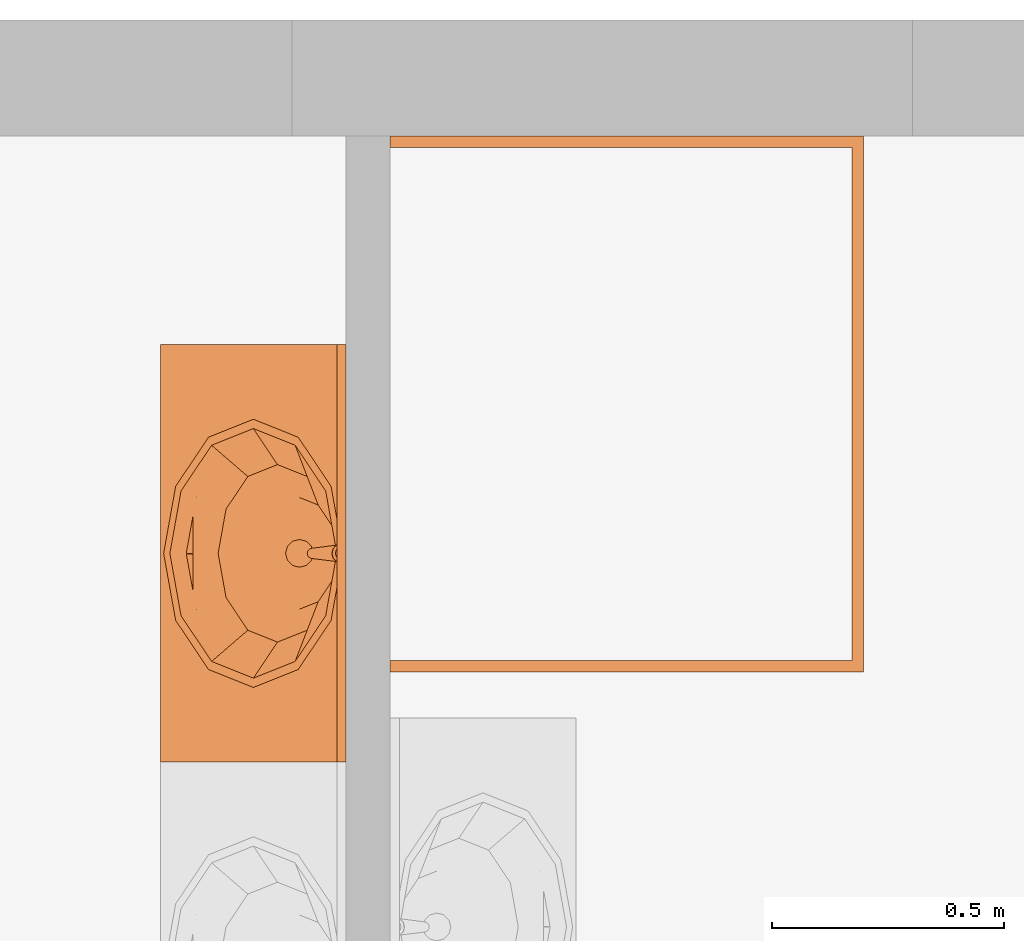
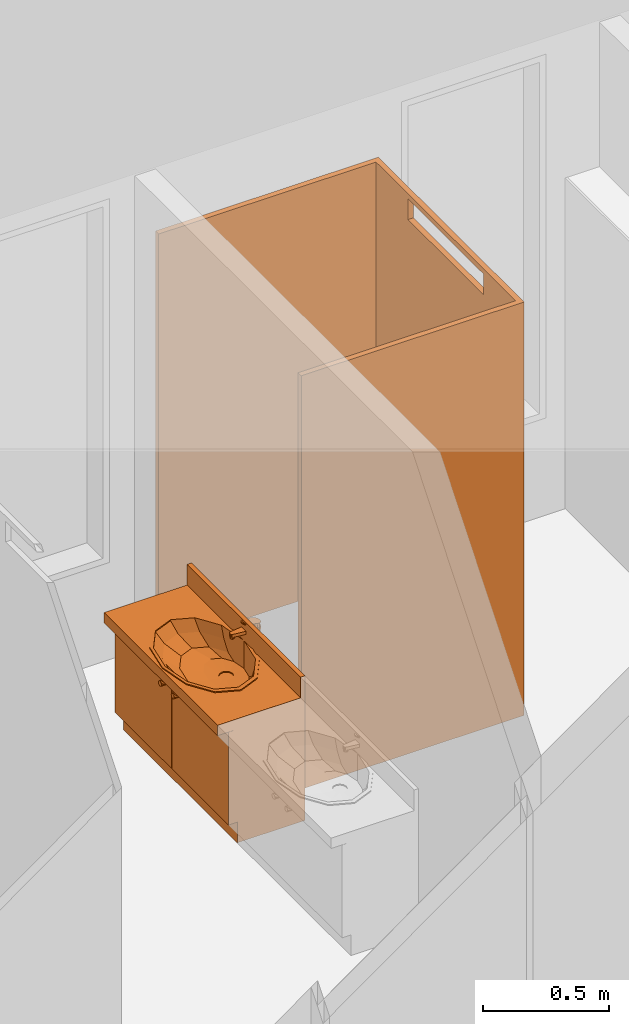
# One storey, part 16 of 17: 2 proxies.
"""IFC2X3 building model written with IfcOpenShell, lengths in millimetres."""

from ifc_helpers import new_model, entity, si_unit, converted_unit, direction, frame, origin_with_axes, place, context, project, spatial, open_shell, faceted_brep, surface_model, material, element, save


model = new_model("IFC2X3")

# Units and contexts
model_context = context("Model", 3, precision=1e-05, world=origin_with_axes(), true_north=direction((0.0, 1.0)))
ifc_project = project(units=[si_unit("LENGTHUNIT", "METRE", prefix="MILLI"), si_unit("AREAUNIT", "SQUARE_METRE"), si_unit("VOLUMEUNIT", "CUBIC_METRE"), converted_unit("PLANEANGLEUNIT", "DEGREE", entity("IfcPlaneAngleMeasure", 0.017453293), si_unit("PLANEANGLEUNIT", "RADIAN"), dimensions=[0, 0, 0, 0, 0, 0, 0]), si_unit("SOLIDANGLEUNIT", "STERADIAN"), si_unit("MASSUNIT", "GRAM"), si_unit("TIMEUNIT", "SECOND"), si_unit("THERMODYNAMICTEMPERATUREUNIT", "DEGREE_CELSIUS"), si_unit("LUMINOUSINTENSITYUNIT", "LUMEN")], contexts=[model_context])

# Site, building, storey
site_placement = place(None, origin_with_axes())
site = spatial("IfcSite", under=ifc_project, at=site_placement, Name="\x83T\x83C\x83g", CompositionType="ELEMENT")
building_placement = place(site_placement, origin_with_axes())
building = spatial("IfcBuilding", under=site, at=building_placement, Name="Daitec-Sample 201208", CompositionType="ELEMENT")
storey_placement = place(building_placement, origin_with_axes())
storey = spatial("IfcBuildingStorey", under=building, at=storey_placement, Name="1F", CompositionType="ELEMENT", Elevation=0.0)

# Proxies
ifc_material = material(Name="\x94w\x8ci")
proxy_1_placement = place(storey_placement, frame((22065.041, 22394.354, 0.0), z_axis=(0.0, 0.0, 1.0), x_axis=(0.0, 1.0, 0.0)))
element("IfcBuildingElementProxy", 1, at=proxy_1_placement, inside=storey, material=ifc_material, Name="O0", CompositionType="ELEMENT", context=model_context, shape_type="Brep", body=[
    faceted_brep([(0.0, 0.0, 200.0), (277.82295, 0.0, 200.0), (277.82295, 0.0, 1975.0), (0.0, 0.0, 1975.0), (0.0, 25.0, 200.0), (277.82295, 25.0, 200.0), (277.82295, 25.0, 1975.0), (0.0, 25.0, 1975.0)], [[[0, 1, 2, 3]], [[0, 4, 5, 1]], [[1, 5, 6, 2]], [[3, 2, 6, 7]], [[4, 0, 3, 7]], [[5, 4, 7, 6]]]),
    faceted_brep([(877.82295, 0.0, 200.0), (1155.6459, 0.0, 200.0), (1155.6459, 0.0, 1975.0), (877.82295, 0.0, 1975.0), (877.82295, 25.0, 200.0), (1155.6459, 25.0, 200.0), (1155.6459, 25.0, 1975.0), (877.82295, 25.0, 1975.0)], [[[0, 1, 2, 3]], [[0, 4, 5, 1]], [[1, 5, 6, 2]], [[3, 2, 6, 7]], [[4, 0, 3, 7]], [[5, 4, 7, 6]]]),
    faceted_brep([(0.0, 0.0, 0.0), (277.82295, 0.0, 0.0), (277.82295, 0.0, 200.0), (0.0, 0.0, 200.0), (0.0, 25.0, 0.0), (277.82295, 25.0, 0.0), (277.82295, 25.0, 200.0), (0.0, 25.0, 200.0)], [[[0, 1, 2, 3]], [[0, 4, 5, 1]], [[1, 5, 6, 2]], [[3, 2, 6, 7]], [[4, 0, 3, 7]], [[5, 4, 7, 6]]]),
    faceted_brep([(877.82295, 0.0, 0.0), (1155.6459, 0.0, 0.0), (1155.6459, 0.0, 200.0), (877.82295, 0.0, 200.0), (877.82295, 25.0, 0.0), (1155.6459, 25.0, 0.0), (1155.6459, 25.0, 200.0), (877.82295, 25.0, 200.0)], [[[0, 1, 2, 3]], [[0, 4, 5, 1]], [[1, 5, 6, 2]], [[3, 2, 6, 7]], [[4, 0, 3, 7]], [[5, 4, 7, 6]]]),
    faceted_brep([(1155.6459, 0.0, 1975.0), (1155.6459, 25.0, 1975.0), (1155.6459, 25.0, 2000.0), (1155.6459, 0.0, 2000.0), (0.0, 0.0, 1975.0), (0.0, 25.0, 1975.0), (0.0, 25.0, 2000.0), (0.0, 0.0, 2000.0)], [[[0, 1, 2, 3]], [[0, 4, 5, 1]], [[1, 5, 6, 2]], [[3, 2, 6, 7]], [[4, 0, 3, 7]], [[5, 4, 7, 6]]]),
    faceted_brep([(277.82295, 0.0, 50.0), (877.82295, 0.0, 50.0), (877.82295, 0.0, 1875.0), (277.82295, 0.0, 1875.0), (277.82295, 25.0, 50.0), (877.82295, 25.0, 50.0), (877.82295, 25.0, 1875.0), (277.82295, 25.0, 1875.0)], [[[0, 1, 2, 3]], [[0, 4, 5, 1]], [[1, 5, 6, 2]], [[3, 2, 6, 7]], [[4, 0, 3, 7]], [[5, 4, 7, 6]]]),
    faceted_brep([(25.0, 25.0, 0.0), (25.0, 1019.9703, 0.0), (25.0, 1019.9703, 2000.0), (25.0, 25.0, 2000.0), (0.0, 25.0, 0.0), (0.0, 1019.9703, 0.0), (0.0, 1019.9703, 2000.0), (0.0, 25.0, 2000.0)], [[[0, 1, 2, 3]], [[0, 4, 5, 1]], [[1, 5, 6, 2]], [[3, 2, 6, 7]], [[4, 0, 3, 7]], [[5, 4, 7, 6]]]),
    faceted_brep([(25.0, 25.0, 1775.0), (25.0, 1019.9703, 1775.0), (25.0, 1019.9703, 1800.0), (25.0, 25.0, 1800.0), (0.0, 25.0, 1775.0), (0.0, 1019.9703, 1775.0), (0.0, 1019.9703, 1800.0), (0.0, 25.0, 1800.0)], [[[0, 1, 2, 3]], [[0, 4, 5, 1]], [[1, 5, 6, 2]], [[3, 2, 6, 7]], [[4, 0, 3, 7]], [[5, 4, 7, 6]]]),
    faceted_brep([(1155.6459, 25.0, 0.0), (1155.6459, 1019.9703, 0.0), (1155.6459, 1019.9703, 2000.0), (1155.6459, 25.0, 2000.0), (1130.6459, 25.0, 0.0), (1130.6459, 1019.9703, 0.0), (1130.6459, 1019.9703, 2000.0), (1130.6459, 25.0, 2000.0)], [[[0, 1, 2, 3]], [[0, 4, 5, 1]], [[1, 5, 6, 2]], [[3, 2, 6, 7]], [[4, 0, 3, 7]], [[5, 4, 7, 6]]]),
    faceted_brep([(1155.6459, 25.0, 1775.0), (1155.6459, 1019.9703, 1775.0), (1155.6459, 1019.9703, 1800.0), (1155.6459, 25.0, 1800.0), (1130.6459, 25.0, 1775.0), (1130.6459, 1019.9703, 1775.0), (1130.6459, 1019.9703, 1800.0), (1130.6459, 25.0, 1800.0)], [[[0, 1, 2, 3]], [[0, 4, 5, 1]], [[1, 5, 6, 2]], [[3, 2, 6, 7]], [[4, 0, 3, 7]], [[5, 4, 7, 6]]]),
])
proxy_2_placement = place(storey_placement, frame((20550.071, 22200.379, 0.0), z_axis=(0.0, 0.0, 1.0), x_axis=(0.0, -1.0, 0.0)))
element("IfcBuildingElementProxy", 2, at=proxy_2_placement, inside=storey, material=ifc_material, Name="O2", context=model_context, shape_type="Brep", body=[
    faceted_brep([(0.0, 90.0, 0.0), (0.0, 90.0, 100.0), (-900.0, 90.0, 100.0), (-900.0, 90.0, 0.0), (0.0, 400.0, 0.0), (0.0, 400.0, 100.0), (-900.0, 400.0, 100.0), (-900.0, 400.0, 0.0)], [[[0, 1, 2, 3]], [[4, 5, 1, 0]], [[1, 5, 6, 2]], [[3, 2, 6, 7]], [[0, 3, 7, 4]], [[7, 6, 5, 4]]]),
    faceted_brep([(0.0, 70.0, 100.0), (0.0, 70.0, 120.0), (-20.0, 70.0, 120.0), (-20.0, 70.0, 100.0), (0.0, 400.0, 100.0), (0.0, 400.0, 120.0), (-20.0, 400.0, 120.0), (-880.0, 400.0, 120.0), (-900.0, 400.0, 120.0), (-900.0, 70.0, 120.0), (-880.0, 70.0, 120.0), (-880.0, 70.0, 100.0), (-900.0, 70.0, 100.0), (-900.0, 400.0, 100.0), (-880.0, 400.0, 100.0), (-20.0, 400.0, 100.0)], [[[0, 1, 2, 3]], [[4, 5, 1, 0]], [[1, 5, 6, 7, 8, 9, 10, 2]], [[3, 2, 10, 11]], [[0, 3, 11, 12, 13, 14, 15, 4]], [[15, 6, 5, 4]], [[14, 7, 6, 15]], [[13, 8, 7, 14]], [[12, 9, 8, 13]], [[11, 10, 9, 12]]]),
    faceted_brep([(0.0, 70.0, 120.0), (0.0, 70.0, 550.0), (-20.0, 70.0, 550.0), (-20.0, 70.0, 120.0), (0.0, 400.0, 120.0), (0.0, 400.0, 550.0), (-900.0, 400.0, 550.0), (-900.0, 70.0, 550.0), (-880.0, 70.0, 550.0), (-880.0, 380.0, 550.0), (-20.0, 380.0, 550.0), (-20.0, 380.0, 120.0), (-880.0, 380.0, 120.0), (-880.0, 70.0, 120.0), (-900.0, 70.0, 120.0), (-900.0, 400.0, 120.0)], [[[0, 1, 2, 3]], [[4, 5, 1, 0]], [[1, 5, 6, 7, 8, 9, 10, 2]], [[3, 2, 10, 11]], [[0, 3, 11, 12, 13, 14, 15, 4]], [[15, 6, 5, 4]], [[14, 7, 6, 15]], [[13, 8, 7, 14]], [[12, 9, 8, 13]], [[11, 10, 9, 12]]]),
    faceted_brep([(-880.0, 70.0, 223.33333), (-880.0, 70.0, 243.33333), (-880.0, 380.0, 243.33333), (-880.0, 380.0, 223.33333), (-20.0, 70.0, 223.33333), (-20.0, 70.0, 243.33333), (-20.0, 380.0, 243.33333), (-20.0, 380.0, 223.33333)], [[[0, 1, 2, 3]], [[4, 5, 1, 0]], [[1, 5, 6, 2]], [[3, 2, 6, 7]], [[0, 3, 7, 4]], [[7, 6, 5, 4]]]),
    faceted_brep([(-880.0, 70.0, 366.66667), (-880.0, 70.0, 386.66667), (-880.0, 380.0, 386.66667), (-880.0, 380.0, 366.66667), (-20.0, 70.0, 366.66667), (-20.0, 70.0, 386.66667), (-20.0, 380.0, 386.66667), (-20.0, 380.0, 366.66667)], [[[0, 1, 2, 3]], [[4, 5, 1, 0]], [[1, 5, 6, 2]], [[3, 2, 6, 7]], [[0, 3, 7, 4]], [[7, 6, 5, 4]]]),
    faceted_brep([(0.0, 400.0, 550.0), (0.0, 0.0, 550.0), (-900.0, 0.0, 550.0), (-900.0, 400.0, 550.0), (-216.17314, 290.0, 550.0), (-315.0, 355.88457, 550.0), (-450.0, 380.0, 550.0), (-585.0, 355.88457, 550.0), (-683.82686, 290.0, 550.0), (-720.0, 200.0, 550.0), (-683.82686, 110.0, 550.0), (-585.0, 44.115427, 550.0), (-450.0, 20.0, 550.0), (-315.0, 44.115427, 550.0), (-216.17314, 110.0, 550.0), (-180.0, 200.0, 550.0), (0.0, 400.0, 600.0), (0.0, 0.0, 600.0), (-900.0, 0.0, 600.0), (-900.0, 400.0, 600.0), (-216.17314, 290.0, 600.0), (-315.0, 355.88457, 600.0), (-450.0, 380.0, 600.0), (-585.0, 355.88457, 600.0), (-683.82686, 290.0, 600.0), (-720.0, 200.0, 600.0), (-683.82686, 110.0, 600.0), (-585.0, 44.115427, 600.0), (-450.0, 20.0, 600.0), (-315.0, 44.115427, 600.0), (-216.17314, 110.0, 600.0), (-180.0, 200.0, 600.0)], [[[0, 1, 2, 3], [4, 5, 6, 7, 8, 9, 10, 11, 12, 13, 14, 15]], [[1, 0, 16, 17]], [[2, 1, 17, 18]], [[3, 2, 18, 19]], [[0, 3, 19, 16]], [[20, 21, 5, 4]], [[21, 22, 6, 5]], [[22, 23, 7, 6]], [[23, 24, 8, 7]], [[24, 25, 9, 8]], [[25, 26, 10, 9]], [[26, 27, 11, 10]], [[27, 28, 12, 11]], [[28, 29, 13, 12]], [[29, 30, 14, 13]], [[30, 31, 15, 14]], [[31, 20, 4, 15]], [[18, 17, 16, 19], [24, 23, 22, 21, 20, 31, 30, 29, 28, 27, 26, 25]]]),
    faceted_brep([(0.0, 380.0, 600.0), (0.0, 380.0, 700.0), (-900.0, 380.0, 700.0), (-900.0, 380.0, 600.0), (0.0, 400.0, 600.0), (0.0, 400.0, 700.0), (-900.0, 400.0, 700.0), (-900.0, 400.0, 600.0)], [[[0, 1, 2, 3]], [[4, 5, 1, 0]], [[1, 5, 6, 2]], [[3, 2, 6, 7]], [[0, 3, 7, 4]], [[7, 6, 5, 4]]]),
    faceted_brep([(-739.0, 200.0, 605.0), (-700.28134, 296.69145, 605.0), (-700.28134, 296.69145, 600.0), (-739.0, 200.0, 600.0), (-700.28134, 103.30855, 605.0), (-594.5, 32.525496, 605.0), (-450.0, 6.6171004, 605.0), (-305.5, 32.525496, 605.0), (-199.71866, 103.30855, 605.0), (-161.0, 200.0, 605.0), (-199.71866, 296.69145, 605.0), (-305.5, 367.4745, 605.0), (-450.0, 393.3829, 605.0), (-594.5, 367.4745, 605.0), (-719.0, 200.0, 605.0), (-682.96083, 290.0, 605.0), (-584.5, 355.88457, 605.0), (-450.0, 380.0, 605.0), (-315.5, 355.88457, 605.0), (-217.03917, 290.0, 605.0), (-181.0, 200.0, 605.0), (-217.03917, 110.0, 605.0), (-315.5, 44.115427, 605.0), (-450.0, 20.0, 605.0), (-584.5, 44.115427, 605.0), (-682.96083, 110.0, 605.0), (-594.5, 367.4745, 600.0), (-450.0, 393.3829, 600.0), (-305.5, 367.4745, 600.0), (-199.71866, 296.69145, 600.0), (-161.0, 200.0, 600.0), (-199.71866, 103.30855, 600.0), (-305.5, 32.525496, 600.0), (-450.0, 6.6171004, 600.0), (-594.5, 32.525496, 600.0), (-700.28134, 103.30855, 600.0), (-719.0, 200.0, 600.0), (-682.96083, 110.0, 600.0), (-584.5, 44.115427, 600.0), (-450.0, 20.0, 600.0), (-315.5, 44.115427, 600.0), (-217.03917, 110.0, 600.0), (-181.0, 200.0, 600.0), (-217.03917, 290.0, 600.0), (-315.5, 355.88457, 600.0), (-450.0, 380.0, 600.0), (-584.5, 355.88457, 600.0), (-682.96083, 290.0, 600.0)], [[[0, 1, 2, 3]], [[0, 4, 5, 6, 7, 8, 9, 10, 11, 12, 13, 1], [14, 15, 16, 17, 18, 19, 20, 21, 22, 23, 24, 25]], [[1, 13, 26, 2]], [[3, 2, 26, 27, 28, 29, 30, 31, 32, 33, 34, 35], [36, 37, 38, 39, 40, 41, 42, 43, 44, 45, 46, 47]], [[4, 0, 3, 35]], [[5, 4, 35, 34]], [[6, 5, 34, 33]], [[7, 6, 33, 32]], [[8, 7, 32, 31]], [[9, 8, 31, 30]], [[10, 9, 30, 29]], [[11, 10, 29, 28]], [[12, 11, 28, 27]], [[13, 12, 27, 26]], [[15, 14, 36, 47]], [[16, 15, 47, 46]], [[17, 16, 46, 45]], [[18, 17, 45, 44]], [[19, 18, 44, 43]], [[20, 19, 43, 42]], [[21, 20, 42, 41]], [[22, 21, 41, 40]], [[23, 22, 40, 39]], [[24, 23, 39, 38]], [[25, 24, 38, 37]], [[14, 25, 37, 36]]]),
    surface_model("IfcShellBasedSurfaceModel", [(-450.0, 380.0, 600.0), (-584.5, 355.88457, 600.0), (-571.05, 358.29612, 548.0), (-450.0, 380.0, 548.0), (-682.96083, 290.0, 600.0), (-659.66475, 299.0, 548.0), (-315.5, 355.88457, 600.0), (-328.95, 358.29612, 548.0), (-719.0, 200.0, 600.0), (-692.1, 218.0, 548.0), (-217.03917, 290.0, 600.0), (-240.33525, 299.0, 548.0), (-682.96083, 110.0, 600.0), (-659.66475, 137.0, 548.0), (-181.0, 200.0, 600.0), (-207.9, 218.0, 548.0), (-584.5, 44.115427, 600.0), (-571.05, 77.703885, 548.0), (-217.03917, 110.0, 600.0), (-240.33525, 137.0, 548.0), (-450.0, 20.0, 600.0), (-450.0, 56.0, 548.0), (-315.5, 44.115427, 600.0), (-328.95, 77.703885, 548.0)], [open_shell([[[0, 1, 2, 3]], [[1, 4, 5, 2]], [[6, 0, 3, 7]], [[4, 8, 9, 5]], [[10, 6, 7, 11]], [[8, 12, 13, 9]], [[14, 10, 11, 15]], [[12, 16, 17, 13]], [[18, 14, 15, 19]], [[16, 20, 21, 17]], [[22, 18, 19, 23]], [[20, 22, 23, 21]]])]),
    surface_model("IfcShellBasedSurfaceModel", [(-450.0, 380.0, 548.0), (-571.05, 358.29612, 548.0), (-545.6295, 362.85393, 496.0), (-450.0, 380.0, 496.0), (-659.66475, 299.0, 548.0), (-615.63515, 316.01, 496.0), (-328.95, 358.29612, 548.0), (-354.3705, 362.85393, 496.0), (-692.1, 218.0, 548.0), (-641.259, 252.02, 496.0), (-240.33525, 299.0, 548.0), (-284.36485, 316.01, 496.0), (-659.66475, 137.0, 548.0), (-615.63515, 188.03, 496.0), (-207.9, 218.0, 548.0), (-258.741, 252.02, 496.0), (-571.05, 77.703885, 548.0), (-545.6295, 141.18607, 496.0), (-240.33525, 137.0, 548.0), (-284.36485, 188.03, 496.0), (-450.0, 56.0, 548.0), (-450.0, 124.04, 496.0), (-328.95, 77.703885, 548.0), (-354.3705, 141.18607, 496.0)], [open_shell([[[0, 1, 2, 3]], [[1, 4, 5, 2]], [[6, 0, 3, 7]], [[4, 8, 9, 5]], [[10, 6, 7, 11]], [[8, 12, 13, 9]], [[14, 10, 11, 15]], [[12, 16, 17, 13]], [[18, 14, 15, 19]], [[16, 20, 21, 17]], [[22, 18, 19, 23]], [[20, 22, 23, 21]]])]),
    surface_model("IfcShellBasedSurfaceModel", [(-450.0, 380.0, 496.0), (-545.6295, 362.85393, 496.0), (-510.24659, 369.19798, 470.0), (-450.0, 380.0, 470.0), (-615.63515, 316.01, 496.0), (-554.35015, 339.6863, 470.0), (-354.3705, 362.85393, 496.0), (-389.75341, 369.19798, 470.0), (-641.259, 252.02, 496.0), (-570.49317, 299.3726, 470.0), (-284.36485, 316.01, 496.0), (-345.64985, 339.6863, 470.0), (-615.63515, 188.03, 496.0), (-554.35015, 259.0589, 470.0), (-258.741, 252.02, 496.0), (-329.50683, 299.3726, 470.0), (-545.6295, 141.18607, 496.0), (-510.24659, 229.54722, 470.0), (-284.36485, 188.03, 496.0), (-345.64985, 259.0589, 470.0), (-450.0, 124.04, 496.0), (-450.0, 218.7452, 470.0), (-354.3705, 141.18607, 496.0), (-389.75341, 229.54722, 470.0)], [open_shell([[[0, 1, 2, 3]], [[1, 4, 5, 2]], [[6, 0, 3, 7]], [[4, 8, 9, 5]], [[10, 6, 7, 11]], [[8, 12, 13, 9]], [[14, 10, 11, 15]], [[12, 16, 17, 13]], [[18, 14, 15, 19]], [[16, 20, 21, 17]], [[22, 18, 19, 23]], [[20, 22, 23, 21]]])]),
    surface_model("IfcShellBasedSurfaceModel", [(-450.0, 380.0, 470.0), (-510.24659, 369.19798, 470.0), (-465.0, 325.35336, 463.0), (-475.98076, 314.3726, 463.0), (-450.0, 329.3726, 463.0), (-554.35015, 339.6863, 470.0), (-389.75341, 369.19798, 470.0), (-480.0, 299.3726, 463.0), (-435.0, 325.35336, 463.0), (-570.49317, 299.3726, 470.0), (-345.64985, 339.6863, 470.0), (-475.98076, 284.3726, 463.0), (-424.01924, 314.3726, 463.0), (-554.35015, 259.0589, 470.0), (-329.50683, 299.3726, 470.0), (-465.0, 273.39184, 463.0), (-420.0, 299.3726, 463.0), (-510.24659, 229.54722, 470.0), (-345.64985, 259.0589, 470.0), (-450.0, 269.3726, 463.0), (-424.01924, 284.3726, 463.0), (-450.0, 218.7452, 470.0), (-389.75341, 229.54722, 470.0), (-435.0, 273.39184, 463.0)], [open_shell([[[0, 1, 2]], [[1, 3, 2]], [[0, 2, 4]], [[1, 5, 3]], [[6, 0, 4]], [[5, 7, 3]], [[6, 4, 8]], [[5, 9, 7]], [[10, 6, 8]], [[9, 11, 7]], [[10, 8, 12]], [[9, 13, 11]], [[14, 10, 12]], [[13, 15, 11]], [[14, 12, 16]], [[13, 17, 15]], [[18, 14, 16]], [[17, 19, 15]], [[18, 16, 20]], [[17, 21, 19]], [[22, 18, 20]], [[21, 23, 19]], [[22, 20, 23]], [[21, 22, 23]]])]),
    surface_model("IfcShellBasedSurfaceModel", [(-480.0, 299.3726, 463.0), (-475.98076, 314.3726, 463.0), (-475.98076, 314.3726, 458.0), (-480.0, 299.3726, 458.0), (-465.0, 325.35336, 463.0), (-465.0, 325.35336, 458.0), (-450.0, 329.3726, 458.0), (-435.0, 325.35336, 458.0), (-424.01924, 314.3726, 458.0), (-420.0, 299.3726, 458.0), (-424.01924, 284.3726, 458.0), (-435.0, 273.39184, 458.0), (-450.0, 269.3726, 458.0), (-465.0, 273.39184, 458.0), (-475.98076, 284.3726, 458.0), (-475.98076, 284.3726, 463.0), (-450.0, 329.3726, 463.0), (-435.0, 325.35336, 463.0), (-424.01924, 314.3726, 463.0), (-420.0, 299.3726, 463.0), (-424.01924, 284.3726, 463.0), (-435.0, 273.39184, 463.0), (-450.0, 269.3726, 463.0), (-465.0, 273.39184, 463.0)], [open_shell([[[0, 1, 2, 3]], [[1, 4, 5, 2]], [[3, 2, 5, 6, 7, 8, 9, 10, 11, 12, 13, 14]], [[15, 0, 3, 14]], [[4, 16, 6, 5]], [[16, 17, 7, 6]], [[17, 18, 8, 7]], [[18, 19, 9, 8]], [[19, 20, 10, 9]], [[20, 21, 11, 10]], [[21, 22, 12, 11]], [[22, 23, 13, 12]], [[23, 15, 14, 13]]])]),
    faceted_brep([(-462.5, 451.65064, 600.0), (-460.58732, 448.33778, 676.50709), (-450.0, 451.20192, 675.96154), (-450.0, 455.0, 600.0), (-471.65064, 442.5, 600.0), (-468.27355, 440.55024, 677.99043), (-471.0, 430.0, 680.0), (-468.10034, 419.54976, 681.99052), (-460.41411, 411.96224, 683.43576), (-450.0, 409.19811, 683.96226), (-439.58589, 411.96224, 683.43576), (-431.89966, 419.54976, 681.99052), (-429.0, 430.0, 680.0), (-431.72645, 440.55024, 677.99043), (-439.41268, 448.33778, 676.50709), (-437.5, 451.65064, 600.0), (-428.34936, 442.5, 600.0), (-425.0, 430.0, 600.0), (-428.34936, 417.5, 600.0), (-437.5, 408.34936, 600.0), (-450.0, 405.0, 600.0), (-462.5, 408.34936, 600.0), (-471.65064, 417.5, 600.0), (-475.0, 430.0, 600.0)], [[[0, 1, 2, 3]], [[4, 5, 1, 0]], [[1, 5, 6, 7, 8, 9, 10, 11, 12, 13, 14, 2]], [[3, 2, 14, 15]], [[0, 3, 15, 16, 17, 18, 19, 20, 21, 22, 23, 4]], [[23, 6, 5, 4]], [[22, 7, 6, 23]], [[21, 8, 7, 22]], [[20, 9, 8, 21]], [[19, 10, 9, 20]], [[18, 11, 10, 19]], [[17, 12, 11, 18]], [[16, 13, 12, 17]], [[15, 14, 13, 16]]]),
    faceted_brep([(-459.0, 327.0, 635.0), (-459.0, 327.0, 645.0), (-457.79423, 331.5, 645.0), (-457.79423, 331.5, 635.0), (-457.79423, 322.5, 635.0), (-457.79423, 322.5, 645.0), (-454.5, 319.20577, 645.0), (-450.0, 318.0, 645.0), (-445.5, 319.20577, 645.0), (-442.20577, 322.5, 645.0), (-441.0, 327.0, 645.0), (-442.20577, 331.5, 645.0), (-445.5, 334.79423, 645.0), (-450.0, 336.0, 645.0), (-454.5, 334.79423, 645.0), (-454.5, 334.79423, 635.0), (-450.0, 336.0, 635.0), (-445.5, 334.79423, 635.0), (-442.20577, 331.5, 635.0), (-441.0, 327.0, 635.0), (-442.20577, 322.5, 635.0), (-445.5, 319.20577, 635.0), (-450.0, 318.0, 635.0), (-454.5, 319.20577, 635.0)], [[[0, 1, 2, 3]], [[4, 5, 1, 0]], [[1, 5, 6, 7, 8, 9, 10, 11, 12, 13, 14, 2]], [[3, 2, 14, 15]], [[0, 3, 15, 16, 17, 18, 19, 20, 21, 22, 23, 4]], [[23, 6, 5, 4]], [[22, 7, 6, 23]], [[21, 8, 7, 22]], [[20, 9, 8, 21]], [[19, 10, 9, 20]], [[18, 11, 10, 19]], [[17, 12, 11, 18]], [[16, 13, 12, 17]], [[15, 14, 13, 16]]]),
    faceted_brep([(-440.97112, 320.71681, 660.0), (-439.08801, 325.61163, 660.0), (-426.1946, 426.9501, 660.0), (-428.27219, 440.19321, 660.0), (-437.12828, 450.2563, 660.0), (-450.0, 453.99998, 660.0), (-462.87172, 450.2563, 660.0), (-471.72781, 440.1932, 660.0), (-473.8054, 426.9501, 660.0), (-460.912, 325.6117, 660.0), (-459.02892, 320.71687, 660.0), (-455.09339, 317.25031, 660.0), (-450.00004, 316.00004, 660.0), (-444.90668, 317.25027, 660.0), (-469.05256, 441.0, 660.0), (-461.0, 449.05256, 660.0), (-450.0, 452.0, 660.0), (-439.0, 449.05256, 660.0), (-430.94744, 441.0, 660.0), (-428.0, 430.0, 660.0), (-430.94744, 419.0, 660.0), (-439.0, 410.94744, 660.0), (-450.0, 408.0, 660.0), (-461.0, 410.94744, 660.0), (-469.05256, 419.0, 660.0), (-472.0, 430.0, 660.0), (-440.97112, 320.71681, 645.0), (-439.08801, 325.61163, 645.0), (-426.1946, 426.9501, 645.0), (-428.27219, 440.19321, 645.0), (-437.12828, 450.2563, 645.0), (-450.0, 453.99998, 645.0), (-462.87172, 450.2563, 645.0), (-471.72781, 440.1932, 645.0), (-473.8054, 426.9501, 645.0), (-460.912, 325.6117, 645.0), (-459.02892, 320.71687, 645.0), (-455.09339, 317.25031, 645.0), (-450.00004, 316.00004, 645.0), (-444.90668, 317.25027, 645.0), (-469.70208, 441.375, 645.0), (-461.375, 449.70208, 645.0), (-450.0, 452.75, 645.0), (-438.625, 449.70208, 645.0), (-430.29792, 441.375, 645.0), (-427.25, 430.0, 645.0), (-430.29792, 418.625, 645.0), (-438.625, 410.29792, 645.0), (-450.0, 407.25, 645.0), (-461.375, 410.29792, 645.0), (-469.70208, 418.625, 645.0), (-472.75, 430.0, 645.0)], [[[0, 1, 2, 3, 4, 5, 6, 7, 8, 9, 10, 11, 12, 13], [14, 15, 16, 17, 18, 19, 20, 21, 22, 23, 24, 25]], [[26, 27, 1, 0]], [[27, 28, 2, 1]], [[28, 29, 3, 2]], [[29, 30, 4, 3]], [[30, 31, 5, 4]], [[31, 32, 6, 5]], [[32, 33, 7, 6]], [[33, 34, 8, 7]], [[34, 35, 9, 8]], [[35, 36, 10, 9]], [[36, 37, 11, 10]], [[37, 38, 12, 11]], [[38, 39, 13, 12]], [[39, 26, 0, 13]], [[40, 41, 15, 14]], [[41, 42, 16, 15]], [[42, 43, 17, 16]], [[43, 44, 18, 17]], [[44, 45, 19, 18]], [[20, 19, 45, 46]], [[21, 20, 46, 47]], [[22, 21, 47, 48]], [[23, 22, 48, 49]], [[24, 23, 49, 50]], [[50, 51, 25, 24]], [[51, 40, 14, 25]], [[28, 27, 26, 39, 38, 37, 36, 35, 34, 33, 32, 31, 30, 29], [44, 43, 42, 41, 40, 51, 50, 49, 48, 47, 46, 45]]]),
    faceted_brep([(-473.893, 428.30743, 680.32239), (-473.893, 429.05588, 684.25175), (-471.29642, 441.52317, 681.87703), (-471.29642, 440.77472, 677.94767), (-470.94594, 388.1633, 687.9689), (-470.94594, 388.91175, 691.89825), (-467.66314, 379.23408, 693.74161), (-460.06144, 372.2847, 695.06531), (-449.99956, 369.76284, 695.54566), (-439.93779, 372.28512, 695.06523), (-432.33638, 379.23481, 693.74148), (-429.054, 388.91261, 691.89808), (-426.10698, 429.05616, 684.2517), (-428.70371, 441.52342, 681.87698), (-437.52832, 450.83965, 680.10246), (-450.00014, 454.28041, 679.44708), (-462.47192, 450.8395, 680.10249), (-464.0, 405.20765, 688.79427), (-436.0, 405.20765, 688.79427), (-436.0, 390.39202, 691.61629), (-437.87564, 383.51565, 692.92608), (-443.0, 378.48179, 693.88491), (-450.0, 376.63928, 694.23586), (-457.0, 378.48179, 693.88491), (-462.12436, 383.51565, 692.92608), (-464.0, 390.39202, 691.61629), (-462.47192, 450.09105, 676.17313), (-450.00014, 453.53196, 675.51772), (-437.52832, 450.0912, 676.17311), (-428.70371, 440.77497, 677.94763), (-426.10698, 428.30771, 680.32234), (-429.054, 388.16417, 687.96873), (-432.33638, 378.48636, 689.81212), (-439.93779, 371.53667, 691.13587), (-449.99956, 369.01439, 691.61631), (-460.06144, 371.53625, 691.13595), (-467.66314, 378.48563, 689.81226), (-464.0, 404.4592, 684.86491), (-464.0, 389.64357, 687.68694), (-462.12436, 382.7672, 688.99672), (-457.0, 377.73334, 689.95555), (-450.0, 375.89083, 690.30651), (-443.0, 377.73334, 689.95555), (-437.87564, 382.7672, 688.99672), (-436.0, 389.64357, 687.68694), (-436.0, 404.4592, 684.86491)], [[[0, 1, 2, 3]], [[4, 5, 1, 0]], [[1, 5, 6, 7, 8, 9, 10, 11, 12, 13, 14, 15, 16, 2], [17, 18, 19, 20, 21, 22, 23, 24, 25]], [[3, 2, 16, 26]], [[0, 3, 26, 27, 28, 29, 30, 31, 32, 33, 34, 35, 36, 4], [37, 38, 39, 40, 41, 42, 43, 44, 45]], [[36, 6, 5, 4]], [[35, 7, 6, 36]], [[34, 8, 7, 35]], [[33, 9, 8, 34]], [[32, 10, 9, 33]], [[31, 11, 10, 32]], [[30, 12, 11, 31]], [[29, 13, 12, 30]], [[28, 14, 13, 29]], [[27, 15, 14, 28]], [[26, 16, 15, 27]], [[45, 18, 17, 37]], [[44, 19, 18, 45]], [[43, 20, 19, 44]], [[42, 21, 20, 43]], [[41, 22, 21, 42]], [[40, 23, 22, 41]], [[39, 24, 23, 40]], [[38, 25, 24, 39]], [[37, 17, 25, 38]]]),
    faceted_brep([(0.0, 70.0, 100.0), (0.0, 50.0, 100.0), (-449.0, 50.0, 100.0), (-449.0, 70.0, 100.0), (0.0, 70.0, 549.0), (0.0, 50.0, 549.0), (-449.0, 50.0, 549.0), (-449.0, 70.0, 549.0)], [[[0, 1, 2, 3]], [[4, 5, 1, 0]], [[1, 5, 6, 2]], [[3, 2, 6, 7]], [[0, 3, 7, 4]], [[7, 6, 5, 4]]]),
    faceted_brep([(-409.3923, 50.0, 484.0), (-411.0, 50.0, 490.0), (-409.3923, 50.0, 496.0), (-405.0, 50.0, 500.3923), (-399.0, 50.0, 502.0), (-393.0, 50.0, 500.3923), (-388.6077, 50.0, 496.0), (-387.0, 50.0, 490.0), (-388.6077, 50.0, 484.0), (-393.0, 50.0, 479.6077), (-399.0, 50.0, 478.0), (-405.0, 50.0, 479.6077), (-409.3923, 25.0, 484.0), (-411.0, 25.0, 490.0), (-409.3923, 25.0, 496.0), (-405.0, 25.0, 500.3923), (-399.0, 25.0, 502.0), (-393.0, 25.0, 500.3923), (-388.6077, 25.0, 496.0), (-387.0, 25.0, 490.0), (-388.6077, 25.0, 484.0), (-393.0, 25.0, 479.6077), (-399.0, 25.0, 478.0), (-405.0, 25.0, 479.6077)], [[[0, 1, 2, 3, 4, 5, 6, 7, 8, 9, 10, 11]], [[0, 12, 13, 1]], [[1, 13, 14, 2]], [[2, 14, 15, 3]], [[3, 15, 16, 4]], [[4, 16, 17, 5]], [[5, 17, 18, 6]], [[6, 18, 19, 7]], [[7, 19, 20, 8]], [[8, 20, 21, 9]], [[9, 21, 22, 10]], [[10, 22, 23, 11]], [[11, 23, 12, 0]], [[12, 23, 22, 21, 20, 19, 18, 17, 16, 15, 14, 13]]]),
    faceted_brep([(-899.0, 70.0, 100.0), (-450.0, 70.0, 100.0), (-450.0, 50.0, 100.0), (-899.0, 50.0, 100.0), (-899.0, 70.0, 549.0), (-450.0, 70.0, 549.0), (-450.0, 50.0, 549.0), (-899.0, 50.0, 549.0)], [[[0, 1, 2, 3]], [[0, 4, 5, 1]], [[1, 5, 6, 2]], [[3, 2, 6, 7]], [[4, 0, 3, 7]], [[5, 4, 7, 6]]]),
    faceted_brep([(-489.6077, 50.0, 484.0), (-494.0, 50.0, 479.6077), (-500.0, 50.0, 478.0), (-506.0, 50.0, 479.6077), (-510.3923, 50.0, 484.0), (-512.0, 50.0, 490.0), (-510.3923, 50.0, 496.0), (-506.0, 50.0, 500.3923), (-500.0, 50.0, 502.0), (-494.0, 50.0, 500.3923), (-489.6077, 50.0, 496.0), (-488.0, 50.0, 490.0), (-489.6077, 25.0, 484.0), (-494.0, 25.0, 479.6077), (-500.0, 25.0, 478.0), (-506.0, 25.0, 479.6077), (-510.3923, 25.0, 484.0), (-512.0, 25.0, 490.0), (-510.3923, 25.0, 496.0), (-506.0, 25.0, 500.3923), (-500.0, 25.0, 502.0), (-494.0, 25.0, 500.3923), (-489.6077, 25.0, 496.0), (-488.0, 25.0, 490.0)], [[[0, 1, 2, 3, 4, 5, 6, 7, 8, 9, 10, 11]], [[1, 0, 12, 13]], [[2, 1, 13, 14]], [[3, 2, 14, 15]], [[4, 3, 15, 16]], [[5, 4, 16, 17]], [[6, 5, 17, 18]], [[7, 6, 18, 19]], [[8, 7, 19, 20]], [[9, 8, 20, 21]], [[10, 9, 21, 22]], [[11, 10, 22, 23]], [[0, 11, 23, 12]], [[12, 23, 22, 21, 20, 19, 18, 17, 16, 15, 14, 13]]]),
])

save(model, "model.ifc")
